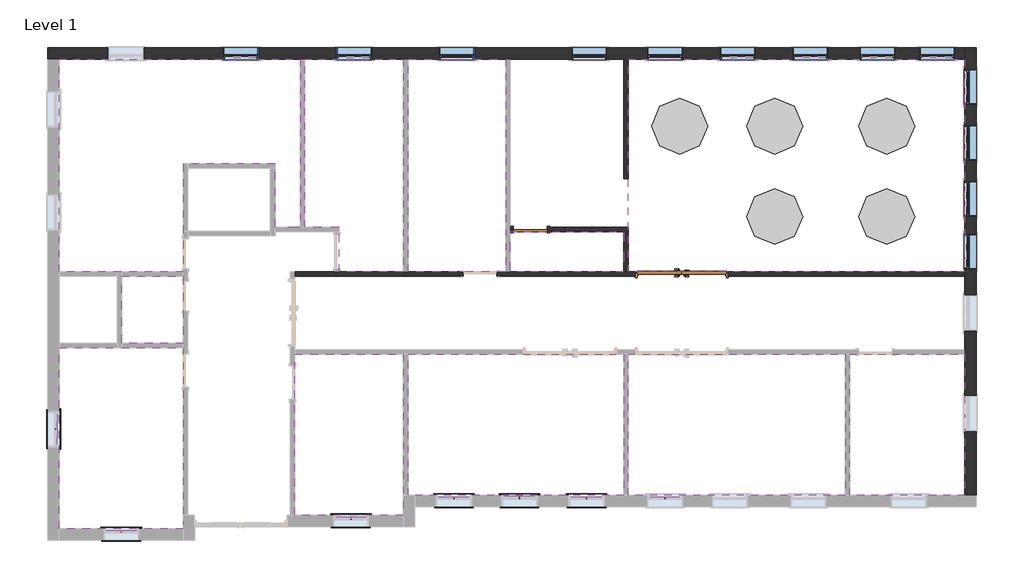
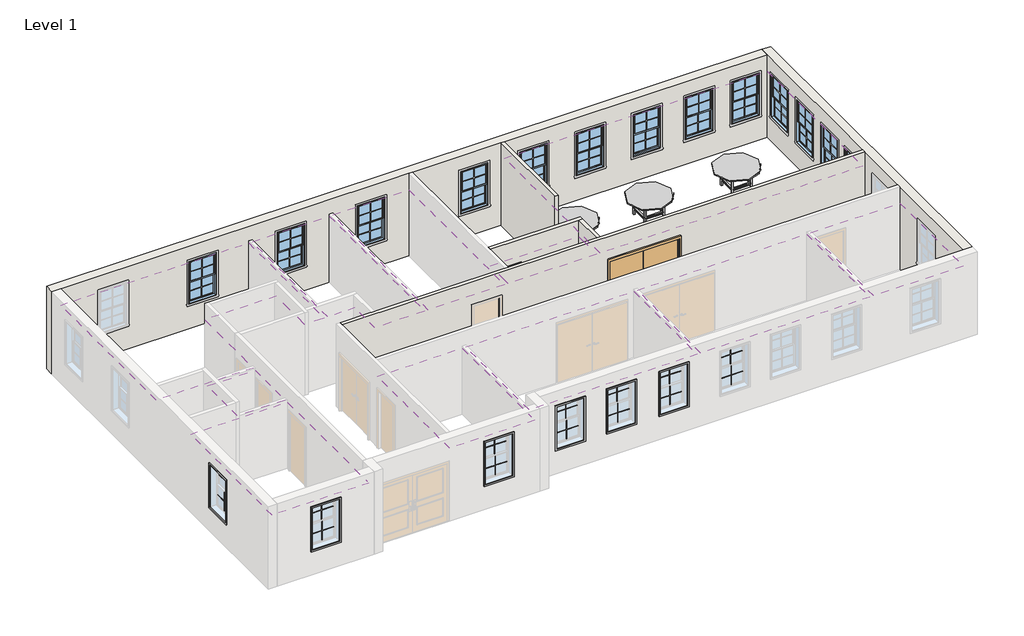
# One storey, part 2 of 3: 26 proxies, 13 windows, 11 coverings, 6 walls, 5 furniture elements, 2 doors.
"""IFC4 building model written with IfcOpenShell, lengths in millimetres."""

from ifc_helpers import new_model, si_unit, frame, origin, origin_with_axes, place, context, project, spatial, polyline, outline, extrude, faceted_brep, transform, mapped, element, save
from components import muntin_pattern_2x2_muntin_pattern_2x2_3f1d5025, trim_window_exterior_flat_with_sill_11ed3377, trim_window_interior_flat_picture_frame_21512d7e, door_f421410e, door_88503111, furniture_bbcc68ce, window_35fc641e

model = new_model("IFC4")

# Units and contexts
model_context = context("Model", 3, world=origin())
ifc_project = project(units=[si_unit("LENGTHUNIT", "METRE", prefix="MILLI")], contexts=[model_context])

# Site, building, storey
site = spatial("IfcSite", under=ifc_project)
building = spatial("IfcBuilding", under=site)
storey = spatial("IfcBuildingStorey", under=building, Name="Level 1", Elevation=0.0)

# Proxies
placement = place(None, origin())
muntin_pattern_2x2_muntin_pattern_2x2_shape = muntin_pattern_2x2_muntin_pattern_2x2_3f1d5025(model_context)
element("IfcBuildingElementProxy", 1, Name="Muntin Pattern_2x2 : Muntin Pattern_2x2", ObjectType="Muntin Pattern_2x2 : Muntin Pattern_2x2", at=placement, inside=storey, context=model_context, shape_type="MappedRepresentation", body=[
    mapped(muntin_pattern_2x2_muntin_pattern_2x2_shape, transform((4183.6666807, -5585.0582548, 1724.025), x_axis=(1.0, 0.0, 0.0), y_axis=(0.0, 1.0, 0.0), z_axis=(0.0, 0.0, 1.0))),
])
element("IfcBuildingElementProxy", 2, Name="Muntin Pattern_2x2 : Muntin Pattern_2x2", ObjectType="Muntin Pattern_2x2 : Muntin Pattern_2x2", at=placement, inside=storey, context=model_context, shape_type="MappedRepresentation", body=[
    mapped(muntin_pattern_2x2_muntin_pattern_2x2_shape, transform((4183.6666807, -5629.5082548, 990.6), x_axis=(1.0, 0.0, 0.0), y_axis=(0.0, 1.0, 0.0), z_axis=(0.0, 0.0, 1.0))),
])
element("IfcBuildingElementProxy", 3, Name="Muntin Pattern_2x2 : Muntin Pattern_2x2", ObjectType="Muntin Pattern_2x2 : Muntin Pattern_2x2", at=placement, inside=storey, context=model_context, shape_type="MappedRepresentation", body=[
    mapped(muntin_pattern_2x2_muntin_pattern_2x2_shape, transform((2050.0666807, -5585.0582548, 1724.025), x_axis=(1.0, 0.0, 0.0), y_axis=(0.0, 1.0, 0.0), z_axis=(0.0, 0.0, 1.0))),
])
element("IfcBuildingElementProxy", 4, Name="Muntin Pattern_2x2 : Muntin Pattern_2x2", ObjectType="Muntin Pattern_2x2 : Muntin Pattern_2x2", at=placement, inside=storey, context=model_context, shape_type="MappedRepresentation", body=[
    mapped(muntin_pattern_2x2_muntin_pattern_2x2_shape, transform((2050.0666807, -5629.5082548, 990.6), x_axis=(1.0, 0.0, 0.0), y_axis=(0.0, 1.0, 0.0), z_axis=(0.0, 0.0, 1.0))),
])
element("IfcBuildingElementProxy", 5, Name="Muntin Pattern_2x2 : Muntin Pattern_2x2", ObjectType="Muntin Pattern_2x2 : Muntin Pattern_2x2", at=placement, inside=storey, context=model_context, shape_type="MappedRepresentation", body=[
    mapped(muntin_pattern_2x2_muntin_pattern_2x2_shape, transform((221.2666807, -5585.0582548, 1724.025), x_axis=(1.0, 0.0, 0.0), y_axis=(0.0, 1.0, 0.0), z_axis=(0.0, 0.0, 1.0))),
])
element("IfcBuildingElementProxy", 6, Name="Muntin Pattern_2x2 : Muntin Pattern_2x2", ObjectType="Muntin Pattern_2x2 : Muntin Pattern_2x2", at=placement, inside=storey, context=model_context, shape_type="MappedRepresentation", body=[
    mapped(muntin_pattern_2x2_muntin_pattern_2x2_shape, transform((221.2666807, -5629.5082548, 990.6), x_axis=(1.0, 0.0, 0.0), y_axis=(0.0, 1.0, 0.0), z_axis=(0.0, 0.0, 1.0))),
])
element("IfcBuildingElementProxy", 7, Name="Muntin Pattern_2x2 : Muntin Pattern_2x2", ObjectType="Muntin Pattern_2x2 : Muntin Pattern_2x2", at=placement, inside=storey, context=model_context, shape_type="MappedRepresentation", body=[
    mapped(muntin_pattern_2x2_muntin_pattern_2x2_shape, transform((-1568.2564516, -5585.0582548, 1724.025), x_axis=(1.0, 0.0, 0.0), y_axis=(0.0, 1.0, 0.0), z_axis=(0.0, 0.0, 1.0))),
])
element("IfcBuildingElementProxy", 8, Name="Muntin Pattern_2x2 : Muntin Pattern_2x2", ObjectType="Muntin Pattern_2x2 : Muntin Pattern_2x2", at=placement, inside=storey, context=model_context, shape_type="MappedRepresentation", body=[
    mapped(muntin_pattern_2x2_muntin_pattern_2x2_shape, transform((-1568.2564516, -5629.5082548, 990.6), x_axis=(1.0, 0.0, 0.0), y_axis=(0.0, 1.0, 0.0), z_axis=(0.0, 0.0, 1.0))),
])
element("IfcBuildingElementProxy", 9, Name="Muntin Pattern_2x2 : Muntin Pattern_2x2", ObjectType="Muntin Pattern_2x2 : Muntin Pattern_2x2", at=placement, inside=storey, context=model_context, shape_type="MappedRepresentation", body=[
    mapped(muntin_pattern_2x2_muntin_pattern_2x2_shape, transform((-4378.3378487, -6136.1012018, 1724.025), x_axis=(1.0, 0.0, 0.0), y_axis=(0.0, 1.0, 0.0), z_axis=(0.0, 0.0, 1.0))),
])
element("IfcBuildingElementProxy", 10, Name="Muntin Pattern_2x2 : Muntin Pattern_2x2", ObjectType="Muntin Pattern_2x2 : Muntin Pattern_2x2", at=placement, inside=storey, context=model_context, shape_type="MappedRepresentation", body=[
    mapped(muntin_pattern_2x2_muntin_pattern_2x2_shape, transform((-4378.3378487, -6180.5512018, 990.6), x_axis=(1.0, 0.0, 0.0), y_axis=(0.0, 1.0, 0.0), z_axis=(0.0, 0.0, 1.0))),
])
element("IfcBuildingElementProxy", 11, Name="Muntin Pattern_2x2 : Muntin Pattern_2x2", ObjectType="Muntin Pattern_2x2 : Muntin Pattern_2x2", at=placement, inside=storey, context=model_context, shape_type="MappedRepresentation", body=[
    mapped(muntin_pattern_2x2_muntin_pattern_2x2_shape, transform((-10634.0662487, -6499.4582548, 1724.025), x_axis=(1.0, 0.0, 0.0), y_axis=(0.0, 1.0, 0.0), z_axis=(0.0, 0.0, 1.0))),
])
element("IfcBuildingElementProxy", 12, Name="Muntin Pattern_2x2 : Muntin Pattern_2x2", ObjectType="Muntin Pattern_2x2 : Muntin Pattern_2x2", at=placement, inside=storey, context=model_context, shape_type="MappedRepresentation", body=[
    mapped(muntin_pattern_2x2_muntin_pattern_2x2_shape, transform((-10634.0662487, -6543.9082548, 990.6), x_axis=(1.0, 0.0, 0.0), y_axis=(0.0, 1.0, 0.0), z_axis=(0.0, 0.0, 1.0))),
])
element("IfcBuildingElementProxy", 13, Name="Muntin Pattern_2x2 : Muntin Pattern_2x2", ObjectType="Muntin Pattern_2x2 : Muntin Pattern_2x2", at=placement, inside=storey, context=model_context, shape_type="MappedRepresentation", body=[
    mapped(muntin_pattern_2x2_muntin_pattern_2x2_shape, transform((-12361.8215226, -3754.8002622, 1724.025), x_axis=(0.0, -1.0, 0.0), y_axis=(1.0, 0.0, 0.0), z_axis=(0.0, 0.0, 1.0))),
])
element("IfcBuildingElementProxy", 14, Name="Muntin Pattern_2x2 : Muntin Pattern_2x2", ObjectType="Muntin Pattern_2x2 : Muntin Pattern_2x2", at=placement, inside=storey, context=model_context, shape_type="MappedRepresentation", body=[
    mapped(muntin_pattern_2x2_muntin_pattern_2x2_shape, transform((-12406.2715226, -3754.8002622, 990.6), x_axis=(0.0, -1.0, 0.0), y_axis=(1.0, 0.0, 0.0), z_axis=(0.0, 0.0, 1.0))),
])
trim_window_exterior_flat_with_sill_shape = trim_window_exterior_flat_with_sill_11ed3377(model_context)
element("IfcBuildingElementProxy", 15, Name="Trim-Window-Exterior-Flat : with Sill", ObjectType="Trim-Window-Exterior-Flat : with Sill", at=placement, inside=storey, context=model_context, shape_type="MappedRepresentation", body=[
    mapped(trim_window_exterior_flat_with_sill_shape, transform((2050.0666807, -5550.1332548, 2489.2), x_axis=(-1.0, 0.0, 0.0), y_axis=(0.0, 0.0, 1.0), z_axis=(0.0, 1.0, 0.0))),
])
element("IfcBuildingElementProxy", 16, Name="Trim-Window-Exterior-Flat : with Sill", ObjectType="Trim-Window-Exterior-Flat : with Sill", at=placement, inside=storey, context=model_context, shape_type="MappedRepresentation", body=[
    mapped(trim_window_exterior_flat_with_sill_shape, transform((221.2666807, -5550.1332548, 2489.2), x_axis=(-1.0, 0.0, 0.0), y_axis=(0.0, 0.0, 1.0), z_axis=(0.0, 1.0, 0.0))),
])
element("IfcBuildingElementProxy", 17, Name="Trim-Window-Exterior-Flat : with Sill", ObjectType="Trim-Window-Exterior-Flat : with Sill", at=placement, inside=storey, context=model_context, shape_type="MappedRepresentation", body=[
    mapped(trim_window_exterior_flat_with_sill_shape, transform((-1568.2564516, -5550.1332548, 2489.2), x_axis=(-1.0, 0.0, 0.0), y_axis=(0.0, 0.0, 1.0), z_axis=(0.0, 1.0, 0.0))),
])
element("IfcBuildingElementProxy", 18, Name="Trim-Window-Exterior-Flat : with Sill", ObjectType="Trim-Window-Exterior-Flat : with Sill", at=placement, inside=storey, context=model_context, shape_type="MappedRepresentation", body=[
    mapped(trim_window_exterior_flat_with_sill_shape, transform((-4378.3378487, -6101.1762018, 2489.2), x_axis=(-1.0, 0.0, 0.0), y_axis=(0.0, 0.0, 1.0), z_axis=(0.0, 1.0, 0.0))),
])
element("IfcBuildingElementProxy", 19, Name="Trim-Window-Exterior-Flat : with Sill", ObjectType="Trim-Window-Exterior-Flat : with Sill", at=placement, inside=storey, context=model_context, shape_type="MappedRepresentation", body=[
    mapped(trim_window_exterior_flat_with_sill_shape, transform((-10634.0662487, -6464.5332548, 2489.2), x_axis=(-1.0, 0.0, 0.0), y_axis=(0.0, 0.0, 1.0), z_axis=(0.0, 1.0, 0.0))),
])
element("IfcBuildingElementProxy", 20, Name="Trim-Window-Exterior-Flat : with Sill", ObjectType="Trim-Window-Exterior-Flat : with Sill", at=placement, inside=storey, context=model_context, shape_type="MappedRepresentation", body=[
    mapped(trim_window_exterior_flat_with_sill_shape, transform((-12326.8965226, -3754.8002622, 2489.2), x_axis=(0.0, 1.0, 0.0), y_axis=(0.0, 0.0, 1.0), z_axis=(1.0, 0.0, 0.0))),
])
trim_window_interior_flat_picture_frame_shape = trim_window_interior_flat_picture_frame_21512d7e(model_context)
element("IfcBuildingElementProxy", 21, Name="Trim-Window-Interior-Flat : Picture Frame", ObjectType="Trim-Window-Interior-Flat : Picture Frame", at=placement, inside=storey, context=model_context, shape_type="MappedRepresentation", body=[
    mapped(trim_window_interior_flat_picture_frame_shape, transform((2050.0666807, -5861.2832548, 2489.2), x_axis=(1.0, 0.0, 0.0), y_axis=(0.0, 0.0, 1.0), z_axis=(0.0, -1.0, 0.0))),
])
element("IfcBuildingElementProxy", 22, Name="Trim-Window-Interior-Flat : Picture Frame", ObjectType="Trim-Window-Interior-Flat : Picture Frame", at=placement, inside=storey, context=model_context, shape_type="MappedRepresentation", body=[
    mapped(trim_window_interior_flat_picture_frame_shape, transform((221.2666807, -5861.2832548, 2489.2), x_axis=(1.0, 0.0, 0.0), y_axis=(0.0, 0.0, 1.0), z_axis=(0.0, -1.0, 0.0))),
])
element("IfcBuildingElementProxy", 23, Name="Trim-Window-Interior-Flat : Picture Frame", ObjectType="Trim-Window-Interior-Flat : Picture Frame", at=placement, inside=storey, context=model_context, shape_type="MappedRepresentation", body=[
    mapped(trim_window_interior_flat_picture_frame_shape, transform((-1568.2564516, -5861.2832548, 2489.2), x_axis=(1.0, 0.0, 0.0), y_axis=(0.0, 0.0, 1.0), z_axis=(0.0, -1.0, 0.0))),
])
element("IfcBuildingElementProxy", 24, Name="Trim-Window-Interior-Flat : Picture Frame", ObjectType="Trim-Window-Interior-Flat : Picture Frame", at=placement, inside=storey, context=model_context, shape_type="MappedRepresentation", body=[
    mapped(trim_window_interior_flat_picture_frame_shape, transform((-4378.3378487, -6412.3262018, 2489.2), x_axis=(1.0, 0.0, 0.0), y_axis=(0.0, 0.0, 1.0), z_axis=(0.0, -1.0, 0.0))),
])
element("IfcBuildingElementProxy", 25, Name="Trim-Window-Interior-Flat : Picture Frame", ObjectType="Trim-Window-Interior-Flat : Picture Frame", at=placement, inside=storey, context=model_context, shape_type="MappedRepresentation", body=[
    mapped(trim_window_interior_flat_picture_frame_shape, transform((-10634.0662487, -6775.6832548, 2489.2), x_axis=(1.0, 0.0, 0.0), y_axis=(0.0, 0.0, 1.0), z_axis=(0.0, -1.0, 0.0))),
])
element("IfcBuildingElementProxy", 26, Name="Trim-Window-Interior-Flat : Picture Frame", ObjectType="Trim-Window-Interior-Flat : Picture Frame", at=placement, inside=storey, context=model_context, shape_type="MappedRepresentation", body=[
    mapped(trim_window_interior_flat_picture_frame_shape, transform((-12638.0465226, -3754.8002622, 2489.2), x_axis=(0.0, -1.0, 0.0), y_axis=(0.0, 0.0, 1.0), z_axis=(-1.0, 0.0, 0.0))),
])

# Coverings
element("IfcCovering", 27, ObjectType="2' x 2' ACT System", at=placement, inside=storey, context=model_context, shape_type="SweptSolid", body=[
    extrude(outline(polyline([(-12326.8965226, 539.3362982), (-12326.8965226, 6330.7167452), (-5761.7329716, 6330.7167452), (-5761.7329716, 1748.3433345), (-6444.0633941, 1748.3433345), (-6444.0633941, 3474.9445684), (-8941.2359749, 3474.9445684), (-8941.2359749, 539.3362982), (-12326.8965226, 539.3362982)])), frame((0.0, 0.0, 2438.4), z_axis=(0.0, 0.0, 1.0), x_axis=(1.0, 0.0, 0.0)), (0.0, 0.0, 1.0), 57.15),
])
element("IfcCovering", 28, ObjectType="2' x 2' ACT System", at=placement, inside=storey, context=model_context, shape_type="SweptSolid", body=[
    extrude(outline(polyline([(-5637.9079716, 1748.3433345), (-5637.9079716, 6330.7167452), (-2943.0314516, 6330.7167452), (-2943.0314516, 539.3362982), (-4692.9713625, 539.3362982), (-4692.9713625, 1748.3433345), (-5637.9079716, 1748.3433345)])), frame((0.0, 0.0, 2438.4), z_axis=(0.0, 0.0, 1.0), x_axis=(1.0, 0.0, 0.0)), (0.0, 0.0, 1.0), 57.15),
])
element("IfcCovering", 29, ObjectType="2' x 2' ACT System", at=placement, inside=storey, context=model_context, shape_type="SweptSolid", body=[
    extrude(outline(polyline([(-2819.2064516, 539.3362982), (-2819.2064516, 6330.7167452), (-159.4630103, 6330.7167452), (-159.4630103, 539.3362982), (-2819.2064516, 539.3362982)])), frame((0.0, 0.0, 2438.4), z_axis=(0.0, 0.0, 1.0), x_axis=(1.0, 0.0, 0.0)), (0.0, 0.0, 1.0), 57.15),
])
element("IfcCovering", 30, ObjectType="2' x 2' ACT System", at=placement, inside=storey, context=model_context, shape_type="SweptSolid", body=[
    extrude(outline(polyline([(3178.7791807, 6330.7167452), (12355.5534774, 6330.7167452), (12355.5534774, 539.3362982), (3178.7791807, 539.3362982), (3178.7791807, 6330.7167452)])), frame((0.0, 0.0, 2438.4), z_axis=(0.0, 0.0, 1.0), x_axis=(1.0, 0.0, 0.0)), (0.0, 0.0, 1.0), 57.15),
])
element("IfcCovering", 31, ObjectType="2' x 2' ACT System", at=placement, inside=storey, context=model_context, shape_type="SweptSolid", body=[
    extrude(outline(polyline([(12355.5534774, -1710.3119449), (12355.5534774, -5550.1332548), (9215.7608002, -5550.1332548), (9215.7608002, -1710.3119449), (12355.5534774, -1710.3119449)])), frame((0.0, 0.0, 2438.4), z_axis=(0.0, 0.0, 1.0), x_axis=(1.0, 0.0, 0.0)), (0.0, 0.0, 1.0), 57.15),
])
element("IfcCovering", 32, ObjectType="2' x 2' ACT System", at=placement, inside=storey, context=model_context, shape_type="SweptSolid", body=[
    extrude(outline(polyline([(9091.9358002, -5550.1332548), (3178.7791807, -5550.1332548), (3178.7791807, -1710.3119449), (9091.9358002, -1710.3119449), (9091.9358002, -5550.1332548)])), frame((0.0, 0.0, 2438.4), z_axis=(0.0, 0.0, 1.0), x_axis=(1.0, 0.0, 0.0)), (0.0, 0.0, 1.0), 57.15),
])
element("IfcCovering", 33, ObjectType="2' x 2' ACT System", at=placement, inside=storey, context=model_context, shape_type="SweptSolid", body=[
    extrude(outline(polyline([(3054.9541807, -5550.1332548), (-2819.2064516, -5550.1332548), (-2819.2064516, -1710.3119449), (3054.9541807, -1710.3119449), (3054.9541807, -5550.1332548)])), frame((0.0, 0.0, 2438.4), z_axis=(0.0, 0.0, 1.0), x_axis=(1.0, 0.0, 0.0)), (0.0, 0.0, 1.0), 57.15),
])
element("IfcCovering", 34, ObjectType="2' x 2' ACT System", at=placement, inside=storey, context=model_context, shape_type="SweptSolid", body=[
    extrude(outline(polyline([(-2943.0314516, -5705.7082548), (-2943.0314516, -6101.1762018), (-5907.3067457, -6101.1762018), (-5907.3067457, -1710.3119449), (-2943.0314516, -1710.3119449), (-2943.0314516, -5705.7082548)])), frame((0.0, 0.0, 2438.4), z_axis=(0.0, 0.0, 1.0), x_axis=(1.0, 0.0, 0.0)), (0.0, 0.0, 1.0), 57.15),
])
element("IfcCovering", 35, ObjectType="2' x 2' ACT System", at=placement, inside=storey, context=model_context, shape_type="SweptSolid", body=[
    extrude(outline(polyline([(-8941.2359749, -6464.5332548), (-12326.8965226, -6464.5332548), (-12326.8965226, -1530.7127622), (-8941.2359749, -1530.7127622), (-8941.2359749, -6256.7512018), (-8941.2359749, -6464.5332548)])), frame((0.0, 0.0, 2438.4), z_axis=(0.0, 0.0, 1.0), x_axis=(1.0, 0.0, 0.0)), (0.0, 0.0, 1.0), 57.15),
])
element("IfcCovering", 36, ObjectType="2' x 2' ACT System", at=placement, inside=storey, context=model_context, shape_type="SweptSolid", body=[
    extrude(outline(polyline([(-10618.9849987, 415.5112982), (-8941.2359749, 415.5112982), (-8941.2359749, -1406.8877622), (-10618.9849987, -1406.8877622), (-10618.9849987, 415.5112982)])), frame((0.0, 0.0, 2438.4), z_axis=(0.0, 0.0, 1.0), x_axis=(1.0, 0.0, 0.0)), (0.0, 0.0, 1.0), 57.15),
])
element("IfcCovering", 37, ObjectType="2' x 2' ACT System", at=placement, inside=storey, context=model_context, shape_type="SweptSolid", body=[
    extrude(outline(polyline([(3054.9541807, 1624.5183345), (3054.9541807, 539.3362982), (-35.6380103, 539.3362982), (-35.6380103, 1624.5183345), (3054.9541807, 1624.5183345)])), frame((0.0, 0.0, 2438.4), z_axis=(0.0, 0.0, 1.0), x_axis=(1.0, 0.0, 0.0)), (0.0, 0.0, 1.0), 57.15),
])

# Doors
door_shape = door_f421410e(model_context)
element("IfcDoor", 38, ObjectType="Door-Passage-Double-Flush : 96\" x 84\"", at=placement, inside=storey, context=model_context, shape_type="MappedRepresentation", body=[
    mapped(door_shape, transform((4640.8666807, 471.0737982, 0.0), x_axis=(1.0, 0.0, 0.0), y_axis=(0.0, 1.0, 0.0), z_axis=(0.0, 0.0, 1.0))),
])
door_2_shape = door_88503111(model_context)
element("IfcDoor", 39, ObjectType="Single-Flush : 36\" x 84\"", at=placement, inside=storey, context=model_context, shape_type="MappedRepresentation", body=[
    mapped(door_2_shape, transform((512.0494897, 1686.4308345, 0.0), x_axis=(-1.0, 0.0, 0.0), y_axis=(0.0, -1.0, 0.0), z_axis=(0.0, 0.0, 1.0))),
])

# Furniture
furniture_shape = furniture_bbcc68ce(model_context)
element("IfcFurniture", 40, ObjectType="Table-Dining Round w Chairs : 60\" Diameter", at=placement, inside=storey, context=model_context, shape_type="MappedRepresentation", body=[
    mapped(furniture_shape, transform((10121.4465102, 4689.9704337, 0.0), x_axis=(1.0, 0.0, 0.0), y_axis=(0.0, 1.0, 0.0), z_axis=(0.0, 0.0, 1.0))),
])
element("IfcFurniture", 41, ObjectType="Table-Dining Round w Chairs : 60\" Diameter", at=placement, inside=storey, context=model_context, shape_type="MappedRepresentation", body=[
    mapped(furniture_shape, transform((10121.4465102, 2226.310757, 0.0), x_axis=(1.0, 0.0, 0.0), y_axis=(0.0, 1.0, 0.0), z_axis=(0.0, 0.0, 1.0))),
])
element("IfcFurniture", 42, ObjectType="Table-Dining Round w Chairs : 60\" Diameter", at=placement, inside=storey, context=model_context, shape_type="MappedRepresentation", body=[
    mapped(furniture_shape, transform((7068.966333, 4689.9704337, 0.0), x_axis=(1.0, 0.0, 0.0), y_axis=(0.0, 1.0, 0.0), z_axis=(0.0, 0.0, 1.0))),
])
element("IfcFurniture", 43, ObjectType="Table-Dining Round w Chairs : 60\" Diameter", at=placement, inside=storey, context=model_context, shape_type="MappedRepresentation", body=[
    mapped(furniture_shape, transform((7068.966333, 2226.310757, 0.0), x_axis=(1.0, 0.0, 0.0), y_axis=(0.0, 1.0, 0.0), z_axis=(0.0, 0.0, 1.0))),
])
element("IfcFurniture", 44, ObjectType="Table-Dining Round w Chairs : 60\" Diameter", at=placement, inside=storey, context=model_context, shape_type="MappedRepresentation", body=[
    mapped(furniture_shape, transform((4478.166333, 4689.9704337, 0.0), x_axis=(1.0, 0.0, 0.0), y_axis=(0.0, 1.0, 0.0), z_axis=(0.0, 0.0, 1.0))),
])

# Walls
element("IfcWall", 45, ObjectType="Exterior - EIFS on Mtl. Stud", at=placement, inside=storey, context=model_context, shape_type="Brep", body=[
    faceted_brep([(12666.7034774, -5550.1332548, 0.0), (12666.7034774, 6641.8667452, 0.0), (12666.7034774, 6641.8667452, 3048.0), (12666.7034774, -5550.1332548, 3048.0), (12666.7034774, 5089.2917452, 2489.2), (12666.7034774, 6054.4917452, 2489.2), (12666.7034774, 6054.4917452, 914.4), (12666.7034774, 5089.2917452, 914.4), (12666.7034774, 3565.2917452, 2489.2), (12666.7034774, 4530.4917452, 2489.2), (12666.7034774, 4530.4917452, 914.4), (12666.7034774, 3565.2917452, 914.4), (12666.7034774, 2041.2917452, 2489.2), (12666.7034774, 3006.4917452, 2489.2), (12666.7034774, 3006.4917452, 914.4), (12666.7034774, 2041.2917452, 914.4), (12666.7034774, 604.4237982, 2489.2), (12666.7034774, 1569.6237982, 2489.2), (12666.7034774, 1569.6237982, 914.4), (12666.7034774, 604.4237982, 914.4), (12666.7034774, -1068.0878233, 2489.2), (12666.7034774, -102.8878233, 2489.2), (12666.7034774, -102.8878233, 914.4), (12666.7034774, -1068.0878233, 914.4), (12666.7034774, -3807.3994449, 2489.2), (12666.7034774, -2842.1994449, 2489.2), (12666.7034774, -2842.1994449, 914.4), (12666.7034774, -3807.3994449, 914.4), (12355.5534774, -5550.1332548, 0.0), (12355.5534774, -5550.1332548, 3048.0), (12355.5534774, -1710.3119449, 3048.0), (12355.5534774, -1586.4869449, 3048.0), (12355.5534774, 415.5112982, 3048.0), (12355.5534774, 539.3362982, 3048.0), (12355.5534774, 6330.7167452, 3048.0), (12355.5534774, 6641.8667452, 3048.0), (12355.5534774, 6641.8667452, 0.0), (12355.5534774, 6330.7167452, 0.0), (12355.5534774, 539.3362982, 0.0), (12355.5534774, 415.5112982, 0.0), (12355.5534774, -1586.4869449, 0.0), (12355.5534774, -1710.3119449, 0.0), (12355.5534774, 5089.2917452, 2489.2), (12355.5534774, 5089.2917452, 914.4), (12355.5534774, 6054.4917452, 914.4), (12355.5534774, 6054.4917452, 2489.2), (12355.5534774, 3565.2917452, 2489.2), (12355.5534774, 3565.2917452, 914.4), (12355.5534774, 4530.4917452, 914.4), (12355.5534774, 4530.4917452, 2489.2), (12355.5534774, 2041.2917452, 2489.2), (12355.5534774, 2041.2917452, 914.4), (12355.5534774, 3006.4917452, 914.4), (12355.5534774, 3006.4917452, 2489.2), (12355.5534774, 604.4237982, 2489.2), (12355.5534774, 604.4237982, 914.4), (12355.5534774, 1569.6237982, 914.4), (12355.5534774, 1569.6237982, 2489.2), (12355.5534774, -1068.0878233, 2489.2), (12355.5534774, -1068.0878233, 914.4), (12355.5534774, -102.8878233, 914.4), (12355.5534774, -102.8878233, 2489.2), (12355.5534774, -3807.3994449, 2489.2), (12355.5534774, -3807.3994449, 914.4), (12355.5534774, -2842.1994449, 914.4), (12355.5534774, -2842.1994449, 2489.2)], [[[0, 1, 2, 3], [4, 5, 6, 7], [8, 9, 10, 11], [12, 13, 14, 15], [16, 17, 18, 19], [20, 21, 22, 23], [24, 25, 26, 27]], [[28, 29, 30, 31, 32, 33, 34, 35, 36, 37, 38, 39, 40, 41], [42, 43, 44, 45], [46, 47, 48, 49], [50, 51, 52, 53], [54, 55, 56, 57], [58, 59, 60, 61], [62, 63, 64, 65]], [[1, 0, 28, 41, 40, 39, 38, 37, 36]], [[3, 2, 35, 34, 33, 32, 31, 30, 29]], [[0, 3, 29, 28]], [[2, 1, 36, 35]], [[43, 42, 4, 7]], [[44, 43, 7, 6]], [[45, 44, 6, 5]], [[42, 45, 5, 4]], [[47, 46, 8, 11]], [[48, 47, 11, 10]], [[49, 48, 10, 9]], [[46, 49, 9, 8]], [[51, 50, 12, 15]], [[52, 51, 15, 14]], [[53, 52, 14, 13]], [[50, 53, 13, 12]], [[55, 54, 16, 19]], [[56, 55, 19, 18]], [[57, 56, 18, 17]], [[54, 57, 17, 16]], [[59, 58, 20, 23]], [[60, 59, 23, 22]], [[61, 60, 22, 21]], [[58, 61, 21, 20]], [[63, 62, 24, 27]], [[64, 63, 27, 26]], [[65, 64, 26, 25]], [[62, 65, 25, 24]]]),
])
element("IfcWall", 46, ObjectType="Exterior - EIFS on Mtl. Stud", at=placement, inside=storey, context=model_context, shape_type="Brep", body=[
    faceted_brep([(12355.5534774, 6641.8667452, 0.0), (-12638.0465226, 6641.8667452, 0.0), (-12638.0465226, 6641.8667452, 3048.0), (12355.5534774, 6641.8667452, 3048.0), (4666.2666807, 6641.8667452, 2489.2), (3701.0666807, 6641.8667452, 2489.2), (3701.0666807, 6641.8667452, 914.4), (4666.2666807, 6641.8667452, 914.4), (6647.4666807, 6641.8667452, 2489.2), (5682.2666807, 6641.8667452, 2489.2), (5682.2666807, 6641.8667452, 914.4), (6647.4666807, 6641.8667452, 914.4), (8628.6666807, 6641.8667452, 2489.2), (7663.4666807, 6641.8667452, 2489.2), (7663.4666807, 6641.8667452, 914.4), (8628.6666807, 6641.8667452, 914.4), (10457.4666807, 6641.8667452, 2489.2), (9492.2666807, 6641.8667452, 2489.2), (9492.2666807, 6641.8667452, 914.4), (10457.4666807, 6641.8667452, 914.4), (12079.3284774, 6641.8667452, 2489.2), (11114.1284774, 6641.8667452, 2489.2), (11114.1284774, 6641.8667452, 914.4), (12079.3284774, 6641.8667452, 914.4), (2601.8580852, 6641.8667452, 2489.2), (1636.6580852, 6641.8667452, 2489.2), (1636.6580852, 6641.8667452, 914.4), (2601.8580852, 6641.8667452, 914.4), (-1006.7347309, 6641.8667452, 2489.2), (-1971.9347309, 6641.8667452, 2489.2), (-1971.9347309, 6641.8667452, 914.4), (-1006.7347309, 6641.8667452, 914.4), (-3807.8697116, 6641.8667452, 2489.2), (-4773.0697116, 6641.8667452, 2489.2), (-4773.0697116, 6641.8667452, 914.4), (-3807.8697116, 6641.8667452, 914.4), (-6893.6204716, 6641.8667452, 2489.2), (-7858.8204716, 6641.8667452, 2489.2), (-7858.8204716, 6641.8667452, 914.4), (-6893.6204716, 6641.8667452, 914.4), (-10018.6715226, 6641.8667452, 2489.2), (-10983.8715226, 6641.8667452, 2489.2), (-10983.8715226, 6641.8667452, 914.4), (-10018.6715226, 6641.8667452, 914.4), (12355.5534774, 6330.7167452, 0.0), (12355.5534774, 6330.7167452, 3048.0), (3178.7791807, 6330.7167452, 3048.0), (3054.9541807, 6330.7167452, 3048.0), (-35.6380103, 6330.7167452, 3048.0), (-159.4630103, 6330.7167452, 3048.0), (-12326.8965226, 6330.7167452, 3048.0), (-12638.0465226, 6330.7167452, 3048.0), (-12638.0465226, 6330.7167452, 0.0), (-12326.8965226, 6330.7167452, 0.0), (-5761.7329716, 6330.7167452, 0.0), (-5637.9079716, 6330.7167452, 0.0), (-2943.0314516, 6330.7167452, 0.0), (-2819.2064516, 6330.7167452, 0.0), (-159.4630103, 6330.7167452, 0.0), (-35.6380103, 6330.7167452, 0.0), (3054.9541807, 6330.7167452, 0.0), (3178.7791807, 6330.7167452, 0.0), (4666.2666807, 6330.7167452, 2489.2), (4666.2666807, 6330.7167452, 914.4), (3701.0666807, 6330.7167452, 914.4), (3701.0666807, 6330.7167452, 2489.2), (6647.4666807, 6330.7167452, 2489.2), (6647.4666807, 6330.7167452, 914.4), (5682.2666807, 6330.7167452, 914.4), (5682.2666807, 6330.7167452, 2489.2), (8628.6666807, 6330.7167452, 2489.2), (8628.6666807, 6330.7167452, 914.4), (7663.4666807, 6330.7167452, 914.4), (7663.4666807, 6330.7167452, 2489.2), (10457.4666807, 6330.7167452, 2489.2), (10457.4666807, 6330.7167452, 914.4), (9492.2666807, 6330.7167452, 914.4), (9492.2666807, 6330.7167452, 2489.2), (12079.3284774, 6330.7167452, 2489.2), (12079.3284774, 6330.7167452, 914.4), (11114.1284774, 6330.7167452, 914.4), (11114.1284774, 6330.7167452, 2489.2), (2601.8580852, 6330.7167452, 2489.2), (2601.8580852, 6330.7167452, 914.4), (1636.6580852, 6330.7167452, 914.4), (1636.6580852, 6330.7167452, 2489.2), (-1006.7347309, 6330.7167452, 2489.2), (-1006.7347309, 6330.7167452, 914.4), (-1971.9347309, 6330.7167452, 914.4), (-1971.9347309, 6330.7167452, 2489.2), (-3807.8697116, 6330.7167452, 2489.2), (-3807.8697116, 6330.7167452, 914.4), (-4773.0697116, 6330.7167452, 914.4), (-4773.0697116, 6330.7167452, 2489.2), (-6893.6204716, 6330.7167452, 2489.2), (-6893.6204716, 6330.7167452, 914.4), (-7858.8204716, 6330.7167452, 914.4), (-7858.8204716, 6330.7167452, 2489.2), (-10018.6715226, 6330.7167452, 2489.2), (-10018.6715226, 6330.7167452, 914.4), (-10983.8715226, 6330.7167452, 914.4), (-10983.8715226, 6330.7167452, 2489.2)], [[[0, 1, 2, 3], [4, 5, 6, 7], [8, 9, 10, 11], [12, 13, 14, 15], [16, 17, 18, 19], [20, 21, 22, 23], [24, 25, 26, 27], [28, 29, 30, 31], [32, 33, 34, 35], [36, 37, 38, 39], [40, 41, 42, 43]], [[44, 45, 46, 47, 48, 49, 50, 51, 52, 53, 54, 55, 56, 57, 58, 59, 60, 61], [62, 63, 64, 65], [66, 67, 68, 69], [70, 71, 72, 73], [74, 75, 76, 77], [78, 79, 80, 81], [82, 83, 84, 85], [86, 87, 88, 89], [90, 91, 92, 93], [94, 95, 96, 97], [98, 99, 100, 101]], [[1, 0, 44, 61, 60, 59, 58, 57, 56, 55, 54, 53, 52]], [[3, 2, 51, 50, 49, 48, 47, 46, 45]], [[0, 3, 45, 44]], [[2, 1, 52, 51]], [[63, 62, 4, 7]], [[64, 63, 7, 6]], [[65, 64, 6, 5]], [[62, 65, 5, 4]], [[67, 66, 8, 11]], [[68, 67, 11, 10]], [[69, 68, 10, 9]], [[66, 69, 9, 8]], [[71, 70, 12, 15]], [[72, 71, 15, 14]], [[73, 72, 14, 13]], [[70, 73, 13, 12]], [[75, 74, 16, 19]], [[76, 75, 19, 18]], [[77, 76, 18, 17]], [[74, 77, 17, 16]], [[79, 78, 20, 23]], [[80, 79, 23, 22]], [[81, 80, 22, 21]], [[78, 81, 21, 20]], [[83, 82, 24, 27]], [[84, 83, 27, 26]], [[85, 84, 26, 25]], [[82, 85, 25, 24]], [[87, 86, 28, 31]], [[88, 87, 31, 30]], [[89, 88, 30, 29]], [[86, 89, 29, 28]], [[91, 90, 32, 35]], [[92, 91, 35, 34]], [[93, 92, 34, 33]], [[90, 93, 33, 32]], [[95, 94, 36, 39]], [[96, 95, 39, 38]], [[97, 96, 38, 37]], [[94, 97, 37, 36]], [[99, 98, 40, 43]], [[100, 99, 43, 42]], [[101, 100, 42, 41]], [[98, 101, 41, 40]]]),
])
element("IfcWall", 47, ObjectType="Interior - 4 7/8\" Partition (1-hr)", at=placement, inside=storey, context=model_context, shape_type="Brep", body=[
    faceted_brep([(12355.5534774, 415.5112982, 3048.0), (-5907.3067457, 415.5112982, 3048.0), (-5907.3067457, 415.5112982, 0.0), (-1316.7505103, 415.5112982, 0.0), (-1316.7505103, 415.5112982, 2133.6), (-402.3505103, 415.5112982, 2133.6), (-402.3505103, 415.5112982, 0.0), (3370.8666807, 415.5112982, 0.0), (3370.8666807, 415.5112982, 2235.2), (5910.8666807, 415.5112982, 2235.2), (5910.8666807, 415.5112982, 0.0), (12355.5534774, 415.5112982, 0.0), (-5907.3067457, 539.3362982, 3048.0), (-4816.7963625, 539.3362982, 3048.0), (-4692.9713625, 539.3362982, 3048.0), (-159.4630103, 539.3362982, 3048.0), (-35.6380103, 539.3362982, 3048.0), (3054.9541807, 539.3362982, 3048.0), (3178.7791807, 539.3362982, 3048.0), (12355.5534774, 539.3362982, 3048.0), (12355.5534774, 539.3362982, 0.0), (5910.8666807, 539.3362982, 0.0), (5910.8666807, 539.3362982, 2235.2), (3370.8666807, 539.3362982, 2235.2), (3370.8666807, 539.3362982, 0.0), (3178.7791807, 539.3362982, 0.0), (3054.9541807, 539.3362982, 0.0), (-35.6380103, 539.3362982, 0.0), (-159.4630103, 539.3362982, 0.0), (-402.3505103, 539.3362982, 0.0), (-402.3505103, 539.3362982, 2133.6), (-1316.7505103, 539.3362982, 2133.6), (-1316.7505103, 539.3362982, 0.0), (-2819.2064516, 539.3362982, 0.0), (-2943.0314516, 539.3362982, 0.0), (-4692.9713625, 539.3362982, 0.0), (-4816.7963625, 539.3362982, 0.0), (-5907.3067457, 539.3362982, 0.0)], [[[0, 1, 2, 3, 4, 5, 6, 7, 8, 9, 10, 11]], [[12, 13, 14, 15, 16, 17, 18, 19, 20, 21, 22, 23, 24, 25, 26, 27, 28, 29, 30, 31, 32, 33, 34, 35, 36, 37]], [[2, 37, 36, 35, 34, 33, 32, 3]], [[20, 11, 10, 21]], [[6, 29, 28, 27, 26, 25, 24, 7]], [[1, 0, 19, 18, 17, 16, 15, 14, 13, 12]], [[2, 1, 12, 37]], [[0, 11, 20, 19]], [[30, 29, 6, 5]], [[31, 30, 5, 4]], [[32, 31, 4, 3]], [[9, 22, 21, 10]], [[22, 9, 8, 23]], [[23, 8, 7, 24]]]),
])
element("IfcWall", 48, ObjectType="Interior - 4 7/8\" Partition (1-hr)", at=placement, inside=storey, context=model_context, shape_type="SweptSolid", body=[
    extrude(outline(polyline([(3178.7791807, 1624.5183345), (3178.7791807, 539.3362982), (3054.9541807, 539.3362982), (3054.9541807, 1624.5183345), (3178.7791807, 1624.5183345)])), origin_with_axes(), (0.0, 0.0, 1.0), 3048.0),
])
element("IfcWall", 49, ObjectType="Interior - 4 7/8\" Partition (1-hr)", at=placement, inside=storey, context=model_context, shape_type="Brep", body=[
    faceted_brep([(-35.6380103, 1624.5183345, 0.0), (54.8494897, 1624.5183345, 0.0), (54.8494897, 1624.5183345, 2133.6), (969.2494897, 1624.5183345, 2133.6), (969.2494897, 1624.5183345, 0.0), (3054.9541807, 1624.5183345, 0.0), (3178.7791807, 1624.5183345, 0.0), (3178.7791807, 1624.5183345, 3048.0), (3054.9541807, 1624.5183345, 3048.0), (-35.6380103, 1624.5183345, 3048.0), (54.8494897, 1748.3433345, 2133.6), (54.8494897, 1748.3433345, 0.0), (-35.6380103, 1748.3433345, 0.0), (-35.6380103, 1748.3433345, 3048.0), (3178.7791807, 1748.3433345, 3048.0), (3178.7791807, 1748.3433345, 0.0), (969.2494897, 1748.3433345, 0.0), (969.2494897, 1748.3433345, 2133.6)], [[[0, 1, 2, 3, 4, 5, 6, 7, 8, 9]], [[10, 11, 12, 13, 14, 15, 16, 17]], [[16, 15, 6, 5, 4]], [[12, 11, 1, 0]], [[9, 8, 7, 14, 13]], [[0, 9, 13, 12]], [[7, 6, 15, 14]], [[2, 1, 11, 10]], [[3, 2, 10, 17]], [[4, 3, 17, 16]]]),
])
element("IfcWall", 50, ObjectType="Interior - 4 7/8\" Partition (1-hr)", at=placement, inside=storey, context=model_context, shape_type="SweptSolid", body=[
    extrude(outline(polyline([(3178.7791807, 6330.7167452), (3178.7791807, 3068.2237982), (3054.9541807, 3068.2237982), (3054.9541807, 6330.7167452), (3178.7791807, 6330.7167452)])), origin_with_axes(), (0.0, 0.0, 1.0), 3048.0),
])

# Windows
window_shape = window_35fc641e(model_context)
element("IfcWindow", 51, ObjectType="Window-Double-Hung : 38\" x 62\"", at=placement, inside=storey, context=model_context, shape_type="MappedRepresentation", body=[
    mapped(window_shape, transform((4183.6666807, 6486.2917452, 0.0), x_axis=(-1.0, 0.0, 0.0), y_axis=(0.0, -1.0, 0.0), z_axis=(0.0, 0.0, 1.0))),
])
element("IfcWindow", 52, ObjectType="Window-Double-Hung : 38\" x 62\"", at=placement, inside=storey, context=model_context, shape_type="MappedRepresentation", body=[
    mapped(window_shape, transform((6164.8666807, 6486.2917452, 0.0), x_axis=(-1.0, 0.0, 0.0), y_axis=(0.0, -1.0, 0.0), z_axis=(0.0, 0.0, 1.0))),
])
element("IfcWindow", 53, ObjectType="Window-Double-Hung : 38\" x 62\"", at=placement, inside=storey, context=model_context, shape_type="MappedRepresentation", body=[
    mapped(window_shape, transform((8146.0666807, 6486.2917452, 0.0), x_axis=(-1.0, 0.0, 0.0), y_axis=(0.0, -1.0, 0.0), z_axis=(0.0, 0.0, 1.0))),
])
element("IfcWindow", 54, ObjectType="Window-Double-Hung : 38\" x 62\"", at=placement, inside=storey, context=model_context, shape_type="MappedRepresentation", body=[
    mapped(window_shape, transform((9974.8666807, 6486.2917452, 0.0), x_axis=(-1.0, 0.0, 0.0), y_axis=(0.0, -1.0, 0.0), z_axis=(0.0, 0.0, 1.0))),
])
element("IfcWindow", 55, ObjectType="Window-Double-Hung : 38\" x 62\"", at=placement, inside=storey, context=model_context, shape_type="MappedRepresentation", body=[
    mapped(window_shape, transform((11596.7284774, 6486.2917452, 0.0), x_axis=(-1.0, 0.0, 0.0), y_axis=(0.0, -1.0, 0.0), z_axis=(0.0, 0.0, 1.0))),
])
element("IfcWindow", 56, ObjectType="Window-Double-Hung : 38\" x 62\"", at=placement, inside=storey, context=model_context, shape_type="MappedRepresentation", body=[
    mapped(window_shape, transform((12511.1284774, 5571.8917452, 0.0), x_axis=(0.0, 1.0, 0.0), y_axis=(-1.0, 0.0, 0.0), z_axis=(0.0, 0.0, 1.0))),
])
element("IfcWindow", 57, ObjectType="Window-Double-Hung : 38\" x 62\"", at=placement, inside=storey, context=model_context, shape_type="MappedRepresentation", body=[
    mapped(window_shape, transform((12511.1284774, 4047.8917452, 0.0), x_axis=(0.0, 1.0, 0.0), y_axis=(-1.0, 0.0, 0.0), z_axis=(0.0, 0.0, 1.0))),
])
element("IfcWindow", 58, ObjectType="Window-Double-Hung : 38\" x 62\"", at=placement, inside=storey, context=model_context, shape_type="MappedRepresentation", body=[
    mapped(window_shape, transform((12511.1284774, 2523.8917452, 0.0), x_axis=(0.0, 1.0, 0.0), y_axis=(-1.0, 0.0, 0.0), z_axis=(0.0, 0.0, 1.0))),
])
element("IfcWindow", 59, ObjectType="Window-Double-Hung : 38\" x 62\"", at=placement, inside=storey, context=model_context, shape_type="MappedRepresentation", body=[
    mapped(window_shape, transform((12511.1284774, 1087.0237982, 0.0), x_axis=(0.0, 1.0, 0.0), y_axis=(-1.0, 0.0, 0.0), z_axis=(0.0, 0.0, 1.0))),
])
element("IfcWindow", 60, ObjectType="Window-Double-Hung : 38\" x 62\"", at=placement, inside=storey, context=model_context, shape_type="MappedRepresentation", body=[
    mapped(window_shape, transform((2119.2580852, 6486.2917452, 0.0), x_axis=(-1.0, 0.0, 0.0), y_axis=(0.0, -1.0, 0.0), z_axis=(0.0, 0.0, 1.0))),
])
element("IfcWindow", 61, ObjectType="Window-Double-Hung : 38\" x 62\"", at=placement, inside=storey, context=model_context, shape_type="MappedRepresentation", body=[
    mapped(window_shape, transform((-1489.3347309, 6486.2917452, 0.0), x_axis=(-1.0, 0.0, 0.0), y_axis=(0.0, -1.0, 0.0), z_axis=(0.0, 0.0, 1.0))),
])
element("IfcWindow", 62, ObjectType="Window-Double-Hung : 38\" x 62\"", at=placement, inside=storey, context=model_context, shape_type="MappedRepresentation", body=[
    mapped(window_shape, transform((-4290.4697116, 6486.2917452, 0.0), x_axis=(-1.0, 0.0, 0.0), y_axis=(0.0, -1.0, 0.0), z_axis=(0.0, 0.0, 1.0))),
])
element("IfcWindow", 63, ObjectType="Window-Double-Hung : 38\" x 62\"", at=placement, inside=storey, context=model_context, shape_type="MappedRepresentation", body=[
    mapped(window_shape, transform((-7376.2204716, 6486.2917452, 0.0), x_axis=(-1.0, 0.0, 0.0), y_axis=(0.0, -1.0, 0.0), z_axis=(0.0, 0.0, 1.0))),
])

save(model, "model.ifc")
